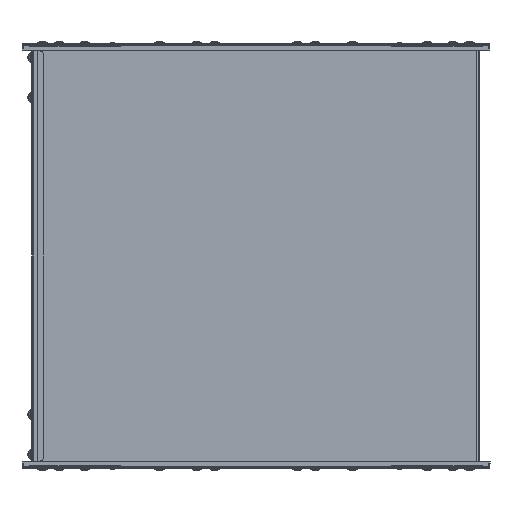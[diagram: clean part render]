
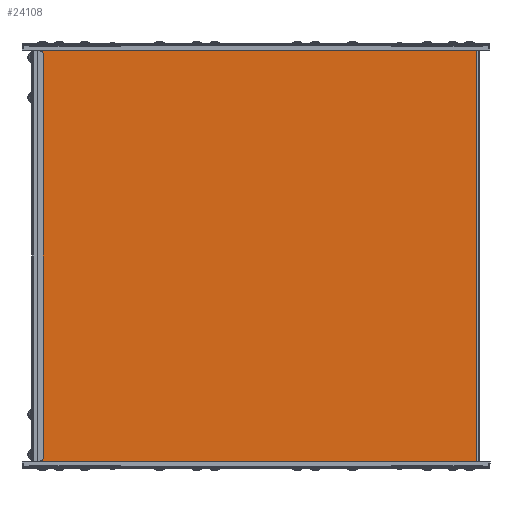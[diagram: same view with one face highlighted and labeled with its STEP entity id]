
A CAD part, left-side view. The second image highlights one B-rep face of the part: STEP entity #24108.
In plain terms, the highlighted planar face has unit normal (-1, 0, 0).
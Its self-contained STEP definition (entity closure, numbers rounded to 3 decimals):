
#1176 = CARTESIAN_POINT ( 'NONE',  ( -299.8, 255.4, -177.3 ) ) ;
#1178 = DIRECTION ( 'NONE',  ( 0., -1., 0. ) ) ;
#1180 = DIRECTION ( 'NONE',  ( 0., -1., 0. ) ) ;
#1184 = CARTESIAN_POINT ( 'NONE',  ( -299.8, 255.4, -177.3 ) ) ;
#1238 = CARTESIAN_POINT ( 'NONE',  ( -299.8, 1.2, 0. ) ) ;
#1240 = DIRECTION ( 'NONE',  ( 0., 0., -1. ) ) ;
#1242 = CARTESIAN_POINT ( 'NONE',  ( -299.8, 255.4, 177.3 ) ) ;
#1245 = DIRECTION ( 'NONE',  ( 0., 1., 0. ) ) ;
#1247 = DIRECTION ( 'NONE',  ( 0., -1., 0. ) ) ;
#1271 = CARTESIAN_POINT ( 'NONE',  ( -299.8, 253.9, 177.3 ) ) ;
#1284 = DIRECTION ( 'NONE',  ( 0., 1., 0. ) ) ;
#1285 = CARTESIAN_POINT ( 'NONE',  ( -299.8, 255.4, 177.3 ) ) ;
#1293 = DIRECTION ( 'NONE',  ( 0., -1., 0. ) ) ;
#1304 = CARTESIAN_POINT ( 'NONE',  ( -299.8, 373., 177.3 ) ) ;
#4439 = CARTESIAN_POINT ( 'NONE',  ( -299.8, 1.2, -177.3 ) ) ;
#5364 = CARTESIAN_POINT ( 'NONE',  ( -299.8, 0., 0. ) ) ;
#5366 = PLANE ( 'NONE',  #5909 ) ;
#5369 = DIRECTION ( 'NONE',  ( 1., 0., 0. ) ) ;
#5370 = DIRECTION ( 'NONE',  ( 0., -1., 0. ) ) ;
#5909 = AXIS2_PLACEMENT_3D ( 'NONE', #5364, #5369, #5370 ) ;
#9277 = VECTOR ( 'NONE', #21541, 1000. ) ;
#9280 = LINE ( 'NONE', #21540, #9277 ) ;
#9613 = VECTOR ( 'NONE', #1293, 1000. ) ;
#9616 = VECTOR ( 'NONE', #1284, 1000. ) ;
#9618 = LINE ( 'NONE', #1285, #9616 ) ;
#9619 = LINE ( 'NONE', #1304, #9613 ) ;
#9622 = VECTOR ( 'NONE', #1247, 1000. ) ;
#9625 = LINE ( 'NONE', #1271, #9622 ) ;
#9628 = VECTOR ( 'NONE', #1245, 1000. ) ;
#9630 = VECTOR ( 'NONE', #1240, 1000. ) ;
#9631 = LINE ( 'NONE', #1242, #9628 ) ;
#9632 = LINE ( 'NONE', #1238, #9630 ) ;
#9640 = VECTOR ( 'NONE', #1180, 1000. ) ;
#9643 = LINE ( 'NONE', #1184, #9640 ) ;
#9644 = VECTOR ( 'NONE', #1178, 1000. ) ;
#9651 = LINE ( 'NONE', #1176, #9644 ) ;
#12648 = LINE ( 'NONE', #17846, #12950 ) ;
#12762 = LINE ( 'NONE', #17847, #12959 ) ;
#12766 = VECTOR ( 'NONE', #17842, 1000. ) ;
#12768 = VECTOR ( 'NONE', #17761, 1000. ) ;
#12782 = LINE ( 'NONE', #17827, #12766 ) ;
#12854 = LINE ( 'NONE', #17767, #12768 ) ;
#12950 = VECTOR ( 'NONE', #17866, 1000. ) ;
#12959 = VECTOR ( 'NONE', #17862, 1000. ) ;
#13083 = EDGE_CURVE ( 'NONE', #18479, #18315, #9651, .T. ) ;
#13085 = EDGE_CURVE ( 'NONE', #19116, #17390, #9643, .T. ) ;
#13092 = EDGE_CURVE ( 'NONE', #19010, #26528, #9632, .T. ) ;
#13093 = EDGE_CURVE ( 'NONE', #18866, #17474, #9631, .T. ) ;
#13098 = EDGE_CURVE ( 'NONE', #18369, #17474, #9625, .T. ) ;
#13102 = EDGE_CURVE ( 'NONE', #18369, #17330, #9618, .T. ) ;
#13104 = EDGE_CURVE ( 'NONE', #18866, #19010, #9619, .T. ) ;
#13353 = EDGE_CURVE ( 'NONE', #26528, #17390, #9280, .T. ) ;
#13470 = EDGE_CURVE ( 'NONE', #19129, #17330, #12854, .T. ) ;
#13478 = EDGE_CURVE ( 'NONE', #17388, #19129, #12782, .T. ) ;
#13481 = EDGE_CURVE ( 'NONE', #18479, #17388, #12762, .T. ) ;
#13485 = EDGE_CURVE ( 'NONE', #19116, #18315, #12648, .T. ) ;
#15977 = FACE_OUTER_BOUND ( 'NONE', #20131, .T. ) ;
#17330 = VERTEX_POINT ( 'NONE', #24972 ) ;
#17388 = VERTEX_POINT ( 'NONE', #25001 ) ;
#17390 = VERTEX_POINT ( 'NONE', #25003 ) ;
#17474 = VERTEX_POINT ( 'NONE', #25052 ) ;
#17761 = DIRECTION ( 'NONE',  ( 0., -1., 0. ) ) ;
#17767 = CARTESIAN_POINT ( 'NONE',  ( -299.8, 373., 177.3 ) ) ;
#17827 = CARTESIAN_POINT ( 'NONE',  ( -299.8, 373., -177.3 ) ) ;
#17842 = DIRECTION ( 'NONE',  ( 0., 0., 1. ) ) ;
#17846 = CARTESIAN_POINT ( 'NONE',  ( -299.8, 121.9, -177.3 ) ) ;
#17847 = CARTESIAN_POINT ( 'NONE',  ( -299.8, 0., -177.3 ) ) ;
#17862 = DIRECTION ( 'NONE',  ( 0., 1., 0. ) ) ;
#17866 = DIRECTION ( 'NONE',  ( 0., 1., 0. ) ) ;
#18315 = VERTEX_POINT ( 'NONE', #25147 ) ;
#18369 = VERTEX_POINT ( 'NONE', #25201 ) ;
#18479 = VERTEX_POINT ( 'NONE', #25311 ) ;
#18866 = VERTEX_POINT ( 'NONE', #25698 ) ;
#19010 = VERTEX_POINT ( 'NONE', #25803 ) ;
#19116 = VERTEX_POINT ( 'NONE', #25849 ) ;
#19129 = VERTEX_POINT ( 'NONE', #25856 ) ;
#20131 = EDGE_LOOP ( 'NONE', ( #20647, #20648, #20685, #21049, #21115, #20649, #20654, #20802, #20800, #20659, #21169, #20655 ) ) ;
#20647 = ORIENTED_EDGE ( 'NONE', *, *, #13092, .F. ) ;
#20648 = ORIENTED_EDGE ( 'NONE', *, *, #13104, .F. ) ;
#20649 = ORIENTED_EDGE ( 'NONE', *, *, #13470, .F. ) ;
#20654 = ORIENTED_EDGE ( 'NONE', *, *, #13478, .F. ) ;
#20655 = ORIENTED_EDGE ( 'NONE', *, *, #13353, .F. ) ;
#20659 = ORIENTED_EDGE ( 'NONE', *, *, #13485, .F. ) ;
#20685 = ORIENTED_EDGE ( 'NONE', *, *, #13093, .T. ) ;
#20800 = ORIENTED_EDGE ( 'NONE', *, *, #13083, .T. ) ;
#20802 = ORIENTED_EDGE ( 'NONE', *, *, #13481, .F. ) ;
#21049 = ORIENTED_EDGE ( 'NONE', *, *, #13098, .F. ) ;
#21115 = ORIENTED_EDGE ( 'NONE', *, *, #13102, .T. ) ;
#21169 = ORIENTED_EDGE ( 'NONE', *, *, #13085, .T. ) ;
#21540 = CARTESIAN_POINT ( 'NONE',  ( -299.8, 0., -177.3 ) ) ;
#21541 = DIRECTION ( 'NONE',  ( 0., 1., 0. ) ) ;
#24108 = ADVANCED_FACE ( 'NONE', ( #15977 ), #5366, .F. ) ;
#24972 = CARTESIAN_POINT ( 'NONE',  ( -299.8, 255.4, 177.3 ) ) ;
#25001 = CARTESIAN_POINT ( 'NONE',  ( -299.8, 373., -177.3 ) ) ;
#25003 = CARTESIAN_POINT ( 'NONE',  ( -299.8, 120.4, -177.3 ) ) ;
#25052 = CARTESIAN_POINT ( 'NONE',  ( -299.8, 121.9, 177.3 ) ) ;
#25147 = CARTESIAN_POINT ( 'NONE',  ( -299.8, 253.9, -177.3 ) ) ;
#25201 = CARTESIAN_POINT ( 'NONE',  ( -299.8, 253.9, 177.3 ) ) ;
#25311 = CARTESIAN_POINT ( 'NONE',  ( -299.8, 255.4, -177.3 ) ) ;
#25698 = CARTESIAN_POINT ( 'NONE',  ( -299.8, 120.4, 177.3 ) ) ;
#25803 = CARTESIAN_POINT ( 'NONE',  ( -299.8, 1.2, 177.3 ) ) ;
#25849 = CARTESIAN_POINT ( 'NONE',  ( -299.8, 121.9, -177.3 ) ) ;
#25856 = CARTESIAN_POINT ( 'NONE',  ( -299.8, 373., 177.3 ) ) ;
#26528 = VERTEX_POINT ( 'NONE', #4439 ) ;
